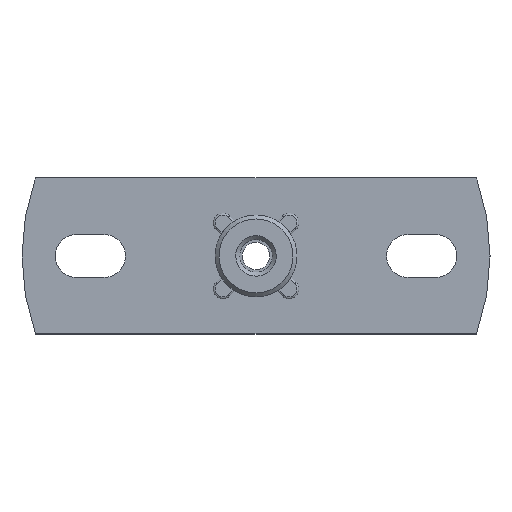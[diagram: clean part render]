
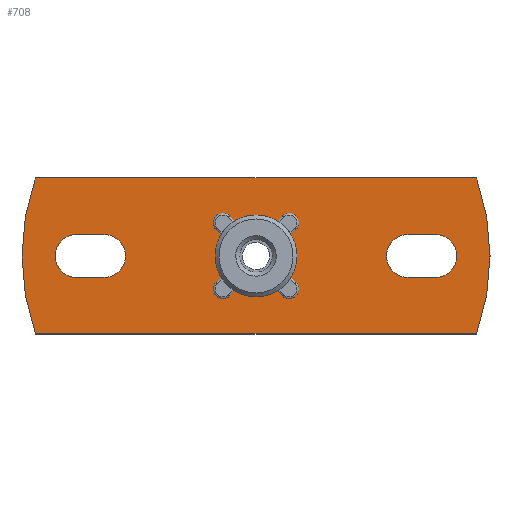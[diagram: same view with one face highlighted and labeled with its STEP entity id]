
A CAD part, top view. The second image highlights one B-rep face of the part: STEP entity #708.
In plain terms, the highlighted planar face has unit normal (0, 0, 1).
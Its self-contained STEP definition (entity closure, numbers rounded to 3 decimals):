
#30=LINE('',#1071,#76);
#34=LINE('',#1082,#80);
#38=LINE('',#1095,#84);
#42=LINE('',#1106,#88);
#44=LINE('',#1111,#90);
#45=LINE('',#1115,#91);
#46=LINE('',#1117,#92);
#47=LINE('',#1120,#93);
#48=LINE('',#1123,#94);
#49=LINE('',#1127,#95);
#50=LINE('',#1131,#96);
#51=LINE('',#1135,#97);
#52=LINE('',#1139,#98);
#53=LINE('',#1143,#99);
#54=LINE('',#1147,#100);
#55=LINE('',#1151,#101);
#76=VECTOR('',#861,1.);
#80=VECTOR('',#873,1.);
#84=VECTOR('',#885,1.);
#88=VECTOR('',#897,1.);
#90=VECTOR('',#901,1.);
#91=VECTOR('',#904,1.);
#92=VECTOR('',#905,1.);
#93=VECTOR('',#908,1.);
#94=VECTOR('',#909,1.);
#95=VECTOR('',#912,1.);
#96=VECTOR('',#915,1.);
#97=VECTOR('',#918,1.);
#98=VECTOR('',#921,1.);
#99=VECTOR('',#924,1.);
#100=VECTOR('',#927,1.);
#101=VECTOR('',#930,1.);
#125=PLANE('',#778);
#138=FACE_BOUND('',#201,.T.);
#139=FACE_BOUND('',#202,.T.);
#140=FACE_BOUND('',#203,.T.);
#159=FACE_OUTER_BOUND('',#200,.T.);
#200=EDGE_LOOP('',(#483,#484,#485,#486,#487,#488));
#201=EDGE_LOOP('',(#489,#490,#491,#492,#493,#494,#495,#496,#497,#498,#499,
#500,#501,#502,#503,#504));
#202=EDGE_LOOP('',(#505,#506,#507,#508));
#203=EDGE_LOOP('',(#509,#510,#511,#512));
#243=CIRCLE('',#763,5.5);
#245=CIRCLE('',#767,5.5);
#247=CIRCLE('',#771,5.5);
#249=CIRCLE('',#775,5.5);
#251=CIRCLE('',#779,60.);
#252=CIRCLE('',#780,60.);
#253=CIRCLE('',#781,2.5);
#254=CIRCLE('',#782,10.478);
#255=CIRCLE('',#783,2.5);
#256=CIRCLE('',#784,10.478);
#257=CIRCLE('',#785,2.5);
#258=CIRCLE('',#786,10.478);
#259=CIRCLE('',#787,2.5);
#260=CIRCLE('',#788,10.478);
#286=VERTEX_POINT('',#1061);
#287=VERTEX_POINT('',#1062);
#290=VERTEX_POINT('',#1070);
#292=VERTEX_POINT('',#1076);
#294=VERTEX_POINT('',#1085);
#295=VERTEX_POINT('',#1086);
#298=VERTEX_POINT('',#1094);
#300=VERTEX_POINT('',#1100);
#302=VERTEX_POINT('',#1109);
#303=VERTEX_POINT('',#1110);
#304=VERTEX_POINT('',#1112);
#305=VERTEX_POINT('',#1114);
#306=VERTEX_POINT('',#1116);
#307=VERTEX_POINT('',#1118);
#308=VERTEX_POINT('',#1121);
#309=VERTEX_POINT('',#1122);
#310=VERTEX_POINT('',#1124);
#311=VERTEX_POINT('',#1126);
#312=VERTEX_POINT('',#1128);
#313=VERTEX_POINT('',#1130);
#314=VERTEX_POINT('',#1132);
#315=VERTEX_POINT('',#1134);
#316=VERTEX_POINT('',#1136);
#317=VERTEX_POINT('',#1138);
#318=VERTEX_POINT('',#1140);
#319=VERTEX_POINT('',#1142);
#320=VERTEX_POINT('',#1144);
#321=VERTEX_POINT('',#1146);
#322=VERTEX_POINT('',#1148);
#323=VERTEX_POINT('',#1150);
#353=EDGE_CURVE('',#286,#287,#243,.T.);
#357=EDGE_CURVE('',#290,#286,#30,.T.);
#360=EDGE_CURVE('',#292,#290,#245,.T.);
#363=EDGE_CURVE('',#287,#292,#34,.T.);
#365=EDGE_CURVE('',#294,#295,#247,.T.);
#369=EDGE_CURVE('',#298,#294,#38,.F.);
#372=EDGE_CURVE('',#300,#298,#249,.T.);
#375=EDGE_CURVE('',#295,#300,#42,.F.);
#377=EDGE_CURVE('',#302,#303,#44,.T.);
#378=EDGE_CURVE('',#303,#304,#251,.T.);
#379=EDGE_CURVE('',#304,#305,#45,.F.);
#380=EDGE_CURVE('',#305,#306,#46,.T.);
#381=EDGE_CURVE('',#306,#307,#252,.T.);
#382=EDGE_CURVE('',#307,#302,#47,.F.);
#383=EDGE_CURVE('',#308,#309,#48,.F.);
#384=EDGE_CURVE('',#310,#308,#253,.T.);
#385=EDGE_CURVE('',#311,#310,#49,.F.);
#386=EDGE_CURVE('',#312,#311,#254,.T.);
#387=EDGE_CURVE('',#313,#312,#50,.F.);
#388=EDGE_CURVE('',#314,#313,#255,.T.);
#389=EDGE_CURVE('',#315,#314,#51,.F.);
#390=EDGE_CURVE('',#316,#315,#256,.T.);
#391=EDGE_CURVE('',#317,#316,#52,.F.);
#392=EDGE_CURVE('',#318,#317,#257,.T.);
#393=EDGE_CURVE('',#319,#318,#53,.F.);
#394=EDGE_CURVE('',#320,#319,#258,.T.);
#395=EDGE_CURVE('',#321,#320,#54,.F.);
#396=EDGE_CURVE('',#322,#321,#259,.T.);
#397=EDGE_CURVE('',#323,#322,#55,.F.);
#398=EDGE_CURVE('',#309,#323,#260,.T.);
#483=ORIENTED_EDGE('',*,*,#377,.T.);
#484=ORIENTED_EDGE('',*,*,#378,.T.);
#485=ORIENTED_EDGE('',*,*,#379,.T.);
#486=ORIENTED_EDGE('',*,*,#380,.T.);
#487=ORIENTED_EDGE('',*,*,#381,.T.);
#488=ORIENTED_EDGE('',*,*,#382,.T.);
#489=ORIENTED_EDGE('',*,*,#383,.F.);
#490=ORIENTED_EDGE('',*,*,#384,.F.);
#491=ORIENTED_EDGE('',*,*,#385,.F.);
#492=ORIENTED_EDGE('',*,*,#386,.F.);
#493=ORIENTED_EDGE('',*,*,#387,.F.);
#494=ORIENTED_EDGE('',*,*,#388,.F.);
#495=ORIENTED_EDGE('',*,*,#389,.F.);
#496=ORIENTED_EDGE('',*,*,#390,.F.);
#497=ORIENTED_EDGE('',*,*,#391,.F.);
#498=ORIENTED_EDGE('',*,*,#392,.F.);
#499=ORIENTED_EDGE('',*,*,#393,.F.);
#500=ORIENTED_EDGE('',*,*,#394,.F.);
#501=ORIENTED_EDGE('',*,*,#395,.F.);
#502=ORIENTED_EDGE('',*,*,#396,.F.);
#503=ORIENTED_EDGE('',*,*,#397,.F.);
#504=ORIENTED_EDGE('',*,*,#398,.F.);
#505=ORIENTED_EDGE('',*,*,#365,.F.);
#506=ORIENTED_EDGE('',*,*,#369,.F.);
#507=ORIENTED_EDGE('',*,*,#372,.F.);
#508=ORIENTED_EDGE('',*,*,#375,.F.);
#509=ORIENTED_EDGE('',*,*,#357,.F.);
#510=ORIENTED_EDGE('',*,*,#360,.F.);
#511=ORIENTED_EDGE('',*,*,#363,.F.);
#512=ORIENTED_EDGE('',*,*,#353,.F.);
#708=ADVANCED_FACE('',(#159,#138,#139,#140),#125,.T.);
#763=AXIS2_PLACEMENT_3D('',#1063,#853,#854);
#767=AXIS2_PLACEMENT_3D('',#1077,#866,#867);
#771=AXIS2_PLACEMENT_3D('',#1087,#877,#878);
#775=AXIS2_PLACEMENT_3D('',#1101,#890,#891);
#778=AXIS2_PLACEMENT_3D('',#1108,#899,#900);
#779=AXIS2_PLACEMENT_3D('',#1113,#902,#903);
#780=AXIS2_PLACEMENT_3D('',#1119,#906,#907);
#781=AXIS2_PLACEMENT_3D('',#1125,#910,#911);
#782=AXIS2_PLACEMENT_3D('',#1129,#913,#914);
#783=AXIS2_PLACEMENT_3D('',#1133,#916,#917);
#784=AXIS2_PLACEMENT_3D('',#1137,#919,#920);
#785=AXIS2_PLACEMENT_3D('',#1141,#922,#923);
#786=AXIS2_PLACEMENT_3D('',#1145,#925,#926);
#787=AXIS2_PLACEMENT_3D('',#1149,#928,#929);
#788=AXIS2_PLACEMENT_3D('',#1152,#931,#932);
#853=DIRECTION('center_axis',(0.,0.,1.));
#854=DIRECTION('ref_axis',(-1.,0.,0.));
#861=DIRECTION('',(1.,0.,0.));
#866=DIRECTION('center_axis',(0.,0.,1.));
#867=DIRECTION('ref_axis',(-1.,0.,0.));
#873=DIRECTION('',(-1.,0.,0.));
#877=DIRECTION('center_axis',(0.,0.,1.));
#878=DIRECTION('ref_axis',(-1.,0.,0.));
#885=DIRECTION('',(-1.,0.,0.));
#890=DIRECTION('center_axis',(0.,0.,1.));
#891=DIRECTION('ref_axis',(-1.,0.,0.));
#897=DIRECTION('',(1.,0.,0.));
#899=DIRECTION('center_axis',(0.,0.,1.));
#900=DIRECTION('ref_axis',(1.,0.,0.));
#901=DIRECTION('',(-1.,0.,0.));
#902=DIRECTION('center_axis',(0.,0.,1.));
#903=DIRECTION('ref_axis',(-1.,0.,0.));
#904=DIRECTION('',(-1.,0.,0.));
#905=DIRECTION('',(1.,0.,0.));
#906=DIRECTION('center_axis',(0.,0.,1.));
#907=DIRECTION('ref_axis',(-1.,0.,0.));
#908=DIRECTION('',(1.,0.,0.));
#909=DIRECTION('',(0.707,0.707,0.));
#910=DIRECTION('center_axis',(0.,0.,1.));
#911=DIRECTION('ref_axis',(-1.,0.,0.));
#912=DIRECTION('',(-0.707,-0.707,0.));
#913=DIRECTION('center_axis',(0.,0.,1.));
#914=DIRECTION('ref_axis',(-1.,0.,0.));
#915=DIRECTION('',(0.707,-0.707,0.));
#916=DIRECTION('center_axis',(0.,0.,1.));
#917=DIRECTION('ref_axis',(-1.,0.,0.));
#918=DIRECTION('',(-0.707,0.707,0.));
#919=DIRECTION('center_axis',(0.,0.,1.));
#920=DIRECTION('ref_axis',(-1.,0.,0.));
#921=DIRECTION('',(-0.707,-0.707,0.));
#922=DIRECTION('center_axis',(0.,0.,1.));
#923=DIRECTION('ref_axis',(-1.,0.,0.));
#924=DIRECTION('',(0.707,0.707,0.));
#925=DIRECTION('center_axis',(0.,0.,1.));
#926=DIRECTION('ref_axis',(-1.,0.,0.));
#927=DIRECTION('',(-0.707,0.707,0.));
#928=DIRECTION('center_axis',(0.,0.,1.));
#929=DIRECTION('ref_axis',(-1.,0.,0.));
#930=DIRECTION('',(0.707,-0.707,0.));
#931=DIRECTION('center_axis',(0.,0.,1.));
#932=DIRECTION('ref_axis',(-1.,0.,0.));
#1061=CARTESIAN_POINT('',(-39.,-5.5,5.));
#1062=CARTESIAN_POINT('',(-39.,5.5,5.));
#1063=CARTESIAN_POINT('Origin',(-39.,0.,5.));
#1070=CARTESIAN_POINT('',(-46.,-5.5,5.));
#1071=CARTESIAN_POINT('',(-42.5,-5.5,5.));
#1076=CARTESIAN_POINT('',(-46.,5.5,5.));
#1077=CARTESIAN_POINT('Origin',(-46.,0.,5.));
#1082=CARTESIAN_POINT('',(-42.5,5.5,5.));
#1085=CARTESIAN_POINT('',(46.,-5.5,5.));
#1086=CARTESIAN_POINT('',(46.,5.5,5.));
#1087=CARTESIAN_POINT('Origin',(46.,0.,5.));
#1094=CARTESIAN_POINT('',(39.,-5.5,5.));
#1095=CARTESIAN_POINT('',(42.5,-5.5,5.));
#1100=CARTESIAN_POINT('',(39.,5.5,5.));
#1101=CARTESIAN_POINT('Origin',(39.,0.,5.));
#1106=CARTESIAN_POINT('',(42.5,5.5,5.));
#1108=CARTESIAN_POINT('Origin',(0.,0.,5.));
#1109=CARTESIAN_POINT('',(0.,20.,5.));
#1110=CARTESIAN_POINT('',(-56.569,20.,5.));
#1111=CARTESIAN_POINT('',(-28.284,20.,5.));
#1112=CARTESIAN_POINT('',(-56.569,-20.,5.));
#1113=CARTESIAN_POINT('Origin',(0.,0.,5.));
#1114=CARTESIAN_POINT('',(0.,-20.,5.));
#1115=CARTESIAN_POINT('',(-28.284,-20.,5.));
#1116=CARTESIAN_POINT('',(56.569,-20.,5.));
#1117=CARTESIAN_POINT('',(28.284,-20.,5.));
#1118=CARTESIAN_POINT('',(56.569,20.,5.));
#1119=CARTESIAN_POINT('Origin',(0.,0.,5.));
#1120=CARTESIAN_POINT('',(28.284,20.,5.));
#1121=CARTESIAN_POINT('',(6.718,10.253,5.));
#1122=CARTESIAN_POINT('',(5.427,8.962,5.));
#1123=CARTESIAN_POINT('',(6.072,9.608,5.));
#1124=CARTESIAN_POINT('',(10.253,6.718,5.));
#1125=CARTESIAN_POINT('Origin',(8.485,8.485,5.));
#1126=CARTESIAN_POINT('',(8.962,5.427,5.));
#1127=CARTESIAN_POINT('',(9.608,6.072,5.));
#1128=CARTESIAN_POINT('',(8.962,-5.427,5.));
#1129=CARTESIAN_POINT('Origin',(0.,0.,5.));
#1130=CARTESIAN_POINT('',(10.253,-6.718,5.));
#1131=CARTESIAN_POINT('',(9.608,-6.072,5.));
#1132=CARTESIAN_POINT('',(6.718,-10.253,5.));
#1133=CARTESIAN_POINT('Origin',(8.485,-8.485,5.));
#1134=CARTESIAN_POINT('',(5.427,-8.962,5.));
#1135=CARTESIAN_POINT('',(6.072,-9.608,5.));
#1136=CARTESIAN_POINT('',(-5.427,-8.962,5.));
#1137=CARTESIAN_POINT('Origin',(0.,0.,5.));
#1138=CARTESIAN_POINT('',(-6.718,-10.253,5.));
#1139=CARTESIAN_POINT('',(-6.072,-9.608,5.));
#1140=CARTESIAN_POINT('',(-10.253,-6.718,5.));
#1141=CARTESIAN_POINT('Origin',(-8.485,-8.485,5.));
#1142=CARTESIAN_POINT('',(-8.962,-5.427,5.));
#1143=CARTESIAN_POINT('',(-9.608,-6.072,5.));
#1144=CARTESIAN_POINT('',(-8.962,5.427,5.));
#1145=CARTESIAN_POINT('Origin',(0.,0.,5.));
#1146=CARTESIAN_POINT('',(-10.253,6.718,5.));
#1147=CARTESIAN_POINT('',(-9.608,6.072,5.));
#1148=CARTESIAN_POINT('',(-6.718,10.253,5.));
#1149=CARTESIAN_POINT('Origin',(-8.485,8.485,5.));
#1150=CARTESIAN_POINT('',(-5.427,8.962,5.));
#1151=CARTESIAN_POINT('',(-6.072,9.608,5.));
#1152=CARTESIAN_POINT('Origin',(0.,0.,5.));
